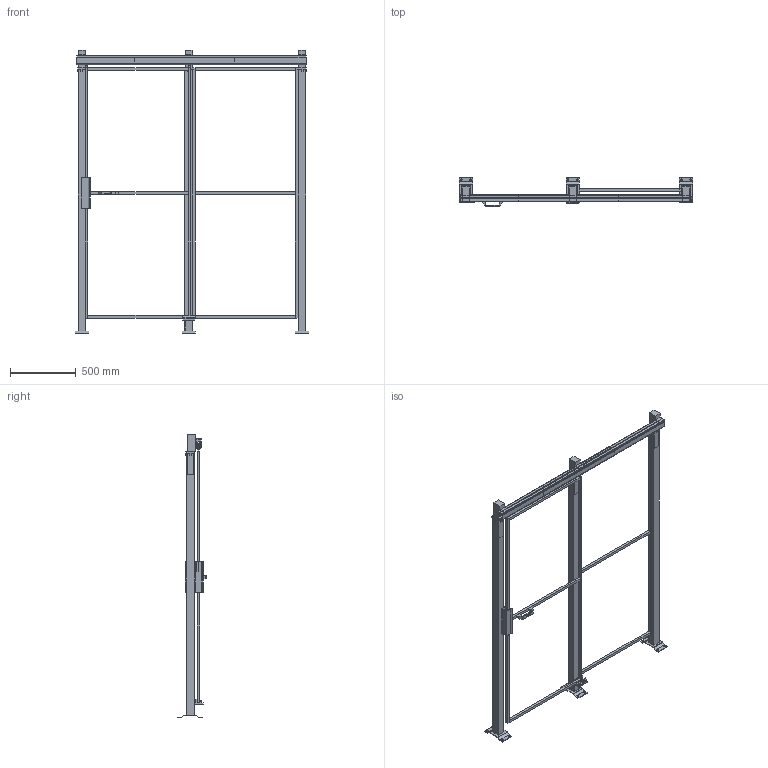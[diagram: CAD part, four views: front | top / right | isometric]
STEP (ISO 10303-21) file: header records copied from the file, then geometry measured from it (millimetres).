
FILE_DESCRIPTION(/* description */ (''),/* implementation_level */ '2;1');
FILE_NAME(/* name */ 'C:\SafeGuarding\ELABORATI\VZOR§POSUVNE_1950x2320_2025-02-13-13-11-01.stp',/* time_stamp */ '2025-02-13T13:11:06+01:00',/* author */ ('admin'),/* organization */ (''),/* preprocessor_version */ 'ST-DEVELOPER v18.1',/* originating_system */ 'AutoCAD Mechanical',/* authorisation */ '');
FILE_SCHEMA (('AUTOMOTIVE_DESIGN { 1 0 10303 214 3 1 1 }'));
Length unit declared in the file: millimetre
Products named in the file (4): Product; R_VFPA.REPE20.08001900; DATI_PORTA; P_VFMA.ME60SDU.2020
Assembly tree (6 placements, depth 2):
  Product
    P_VFMA.ME60SDU.2020  x3
    R_VFPA.REPE20.08001900  x2
    DATI_PORTA
Bounding box: 1770 x 219.95 x 2154 mm (x, y, z)
Volume: 33050416.3 mm3; surface area: 4116868.4 mm2
Topology: 35 solids, 46 shells, 482 faces, 1534 edges, 1452 vertices
Faces by surface type: plane 442, cylinder 38, sphere 2
Full cylindrical faces by diameter (mm): 11 x12, 12 x2, 15 x4, 40 x4
Entity records: 11964 total; most frequent: CARTESIAN_POINT 2523, DIRECTION 1809, ORIENTED_EDGE 1758, EDGE_CURVE 928, LINE 861, VECTOR 861, VERTEX_POINT 660, AXIS2_PLACEMENT_3D 474
